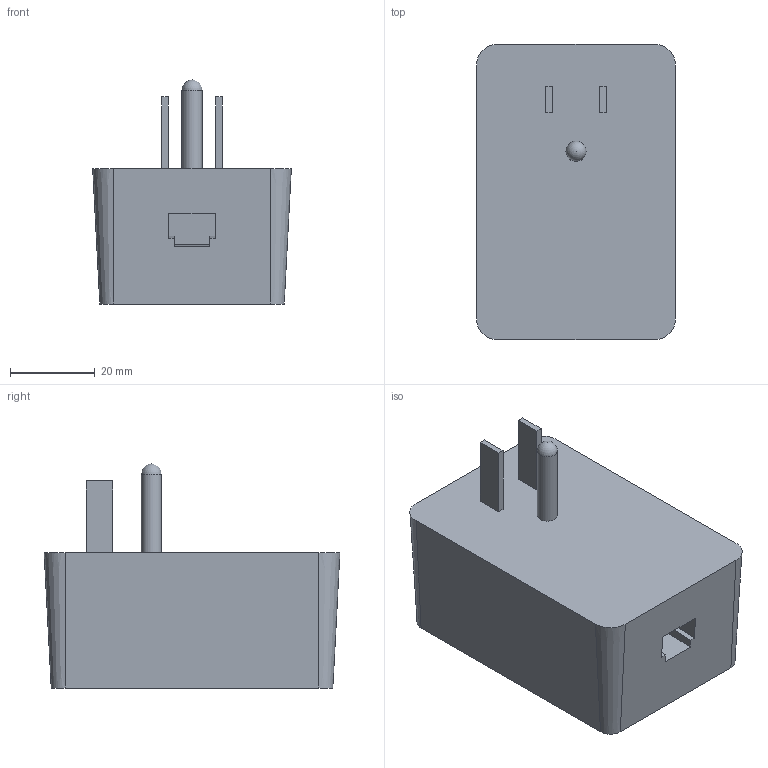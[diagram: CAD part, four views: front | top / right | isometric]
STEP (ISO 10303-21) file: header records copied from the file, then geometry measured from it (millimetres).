
FILE_DESCRIPTION(('HOOPS Exchange Step'),'2;1');
FILE_NAME('C:\Users\Burley\AppData\Local\Temp\Alibre Design\export-A211F43E-D896-4F45-AA81-121716A26678.stp','2022-06-01T09:39:37-06:00',('Burley'),('Alibre'),'HOOPS Exchange 2021.0','Alibre','Unknown authorisation');
FILE_SCHEMA( ('AP242_MANAGED_MODEL_BASED_3D_ENGINEERING_MIM_LF {1 0 10303 442 1 1 4 }') );
Length unit declared in the file: millimetre
Products named in the file (1): PSU1000_0_3D
Bounding box: 47 x 70 x 53 mm (x, y, z)
Volume: 97905.3 mm3; surface area: 15000.1 mm2
Topology: 1 solids, 1 shells, 46 faces, 114 edges, 76 vertices
Faces by surface type: plane 39, cone 4, cylinder 2, sphere 1
Full cylindrical faces by diameter (mm): 4.75 x1
Entity records: 1377 total; most frequent: CARTESIAN_POINT 237, ORIENTED_EDGE 226, DIRECTION 223, EDGE_CURVE 113, VECTOR 99, LINE 99, VERTEX_POINT 76, AXIS2_PLACEMENT_3D 62
